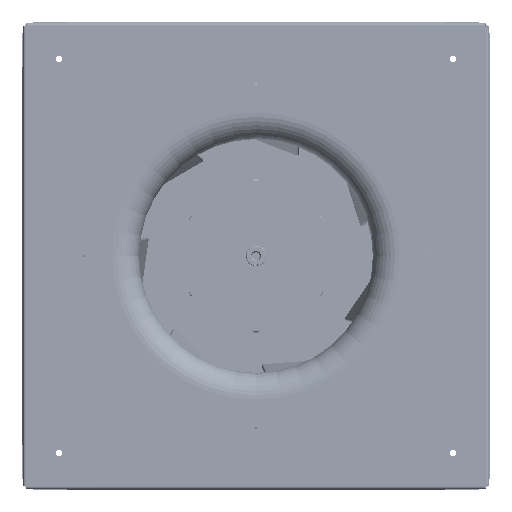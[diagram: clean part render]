
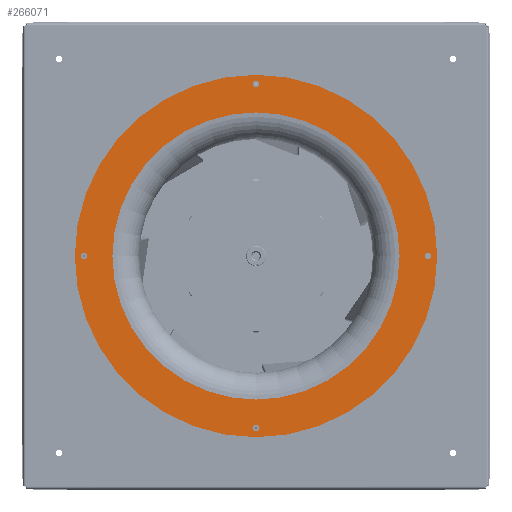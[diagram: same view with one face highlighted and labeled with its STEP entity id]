
A CAD part, front view. The second image highlights one B-rep face of the part: STEP entity #266071.
In plain terms, the highlighted planar face has unit normal (0, -1, 0) as drawn and (0, 0, 1) by its records, which use the part's own axes.
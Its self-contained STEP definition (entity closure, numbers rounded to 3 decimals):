
#5784 = DIRECTION ( 'NONE',  ( 0., 0., 1. ) ) ;
#5878 = VERTEX_POINT ( 'NONE', #50134 ) ;
#6173 = ORIENTED_EDGE ( 'NONE', *, *, #107104, .F. ) ;
#6740 = CIRCLE ( 'NONE', #168367, 8.018 ) ;
#9178 = DIRECTION ( 'NONE',  ( 0., 0., -1. ) ) ;
#9321 = EDGE_LOOP ( 'NONE', ( #62946, #92920 ) ) ;
#13219 = DIRECTION ( 'NONE',  ( 0., 0., 1. ) ) ;
#19659 = DIRECTION ( 'NONE',  ( -1., 0., 0. ) ) ;
#24065 = DIRECTION ( 'NONE',  ( 0., 0., 1. ) ) ;
#26367 = CARTESIAN_POINT ( 'NONE',  ( -9.606, 0., 0. ) ) ;
#29734 = FACE_OUTER_BOUND ( 'NONE', #58894, .T. ) ;
#30065 = DIRECTION ( 'NONE',  ( 0., -1., 0. ) ) ;
#31469 = CARTESIAN_POINT ( 'NONE',  ( 9.606, 0.167, 0. ) ) ;
#32112 = CARTESIAN_POINT ( 'NONE',  ( -10.118, 0., 0. ) ) ;
#32847 = CARTESIAN_POINT ( 'NONE',  ( 0., -9.606, 0. ) ) ;
#34718 = CIRCLE ( 'NONE', #213955, 0.167 ) ;
#40128 = CIRCLE ( 'NONE', #188837, 0.167 ) ;
#41411 = AXIS2_PLACEMENT_3D ( 'NONE', #26367, #5784, #156307 ) ;
#48426 = ORIENTED_EDGE ( 'NONE', *, *, #57987, .F. ) ;
#48944 = FACE_BOUND ( 'NONE', #126848, .T. ) ;
#50134 = CARTESIAN_POINT ( 'NONE',  ( 10.118, 0., 0. ) ) ;
#50281 = PLANE ( 'NONE',  #117219 ) ;
#55107 = AXIS2_PLACEMENT_3D ( 'NONE', #178624, #245798, #137483 ) ;
#55644 = CARTESIAN_POINT ( 'NONE',  ( 0., 0., 0. ) ) ;
#57987 = EDGE_CURVE ( 'NONE', #222456, #238780, #40128, .T. ) ;
#58894 = EDGE_LOOP ( 'NONE', ( #87201, #88058 ) ) ;
#60130 = CARTESIAN_POINT ( 'NONE',  ( 8.018, 0., 0. ) ) ;
#62946 = ORIENTED_EDGE ( 'NONE', *, *, #197472, .F. ) ;
#66470 = VERTEX_POINT ( 'NONE', #269096 ) ;
#70625 = VERTEX_POINT ( 'NONE', #31469 ) ;
#75312 = DIRECTION ( 'NONE',  ( -1., 0., 0. ) ) ;
#78964 = VERTEX_POINT ( 'NONE', #120153 ) ;
#81913 = CARTESIAN_POINT ( 'NONE',  ( 0., 9.606, 0. ) ) ;
#82066 = CARTESIAN_POINT ( 'NONE',  ( 0., 0., 0. ) ) ;
#84742 = DIRECTION ( 'NONE',  ( 0., 0., 1. ) ) ;
#84910 = CIRCLE ( 'NONE', #238027, 10.118 ) ;
#87201 = ORIENTED_EDGE ( 'NONE', *, *, #255250, .T. ) ;
#88058 = ORIENTED_EDGE ( 'NONE', *, *, #128654, .T. ) ;
#92469 = CARTESIAN_POINT ( 'NONE',  ( -9.606, -0.167, 0. ) ) ;
#92920 = ORIENTED_EDGE ( 'NONE', *, *, #191791, .F. ) ;
#95372 = DIRECTION ( 'NONE',  ( 0., -1., 0. ) ) ;
#99235 = CIRCLE ( 'NONE', #103518, 0.167 ) ;
#101745 = DIRECTION ( 'NONE',  ( 0., 0., 1. ) ) ;
#102043 = DIRECTION ( 'NONE',  ( 0., 0., 1. ) ) ;
#102764 = CARTESIAN_POINT ( 'NONE',  ( 9.606, -0.167, 0. ) ) ;
#103518 = AXIS2_PLACEMENT_3D ( 'NONE', #81913, #207866, #202507 ) ;
#103698 = EDGE_CURVE ( 'NONE', #216559, #70625, #34718, .T. ) ;
#106087 = DIRECTION ( 'NONE',  ( 1., 0., 0. ) ) ;
#107104 = EDGE_CURVE ( 'NONE', #66470, #241911, #6740, .T. ) ;
#109994 = ORIENTED_EDGE ( 'NONE', *, *, #188020, .F. ) ;
#112198 = AXIS2_PLACEMENT_3D ( 'NONE', #229544, #24065, #147281 ) ;
#116964 = CIRCLE ( 'NONE', #186984, 8.018 ) ;
#117219 = AXIS2_PLACEMENT_3D ( 'NONE', #133752, #9178, #259908 ) ;
#120153 = CARTESIAN_POINT ( 'NONE',  ( 0.167, 9.606, 0. ) ) ;
#122915 = EDGE_CURVE ( 'NONE', #158729, #254828, #198685, .T. ) ;
#126848 = EDGE_LOOP ( 'NONE', ( #158211, #6173 ) ) ;
#126925 = CARTESIAN_POINT ( 'NONE',  ( -0.167, -9.606, 0. ) ) ;
#127966 = DIRECTION ( 'NONE',  ( 0., 0., 1. ) ) ;
#128654 = EDGE_CURVE ( 'NONE', #255056, #5878, #182222, .T. ) ;
#133574 = EDGE_LOOP ( 'NONE', ( #157157, #219951 ) ) ;
#133752 = CARTESIAN_POINT ( 'NONE',  ( 0., 10.118, 0. ) ) ;
#135078 = CARTESIAN_POINT ( 'NONE',  ( 9.606, 0., 0. ) ) ;
#137483 = DIRECTION ( 'NONE',  ( 1., 0., 0. ) ) ;
#138115 = CIRCLE ( 'NONE', #55107, 0.167 ) ;
#140525 = CIRCLE ( 'NONE', #215034, 0.167 ) ;
#142042 = CIRCLE ( 'NONE', #41411, 0.167 ) ;
#144041 = ORIENTED_EDGE ( 'NONE', *, *, #207850, .F. ) ;
#147281 = DIRECTION ( 'NONE',  ( 1., 0., 0. ) ) ;
#156307 = DIRECTION ( 'NONE',  ( 0., 1., 0. ) ) ;
#157157 = ORIENTED_EDGE ( 'NONE', *, *, #103698, .F. ) ;
#158211 = ORIENTED_EDGE ( 'NONE', *, *, #234895, .F. ) ;
#158327 = FACE_BOUND ( 'NONE', #219143, .T. ) ;
#158729 = VERTEX_POINT ( 'NONE', #92469 ) ;
#159919 = CARTESIAN_POINT ( 'NONE',  ( -0.167, 9.606, 0. ) ) ;
#161996 = CARTESIAN_POINT ( 'NONE',  ( -9.606, 0., 0. ) ) ;
#164091 = CIRCLE ( 'NONE', #251828, 0.167 ) ;
#168367 = AXIS2_PLACEMENT_3D ( 'NONE', #82066, #84742, #250566 ) ;
#175221 = CARTESIAN_POINT ( 'NONE',  ( 9.606, 0., 0. ) ) ;
#175498 = CARTESIAN_POINT ( 'NONE',  ( -9.606, 0.167, 0. ) ) ;
#178624 = CARTESIAN_POINT ( 'NONE',  ( 0., 9.606, 0. ) ) ;
#182222 = CIRCLE ( 'NONE', #112198, 10.118 ) ;
#182670 = DIRECTION ( 'NONE',  ( 0., 0., 1. ) ) ;
#186984 = AXIS2_PLACEMENT_3D ( 'NONE', #204829, #102043, #251372 ) ;
#188020 = EDGE_CURVE ( 'NONE', #254828, #158729, #142042, .T. ) ;
#188837 = AXIS2_PLACEMENT_3D ( 'NONE', #32847, #263035, #75312 ) ;
#191791 = EDGE_CURVE ( 'NONE', #202473, #78964, #138115, .T. ) ;
#197153 = DIRECTION ( 'NONE',  ( 0., 0., 1. ) ) ;
#197212 = CARTESIAN_POINT ( 'NONE',  ( 0.167, -9.606, 0. ) ) ;
#197472 = EDGE_CURVE ( 'NONE', #78964, #202473, #99235, .T. ) ;
#198685 = CIRCLE ( 'NONE', #246858, 0.167 ) ;
#202473 = VERTEX_POINT ( 'NONE', #159919 ) ;
#202507 = DIRECTION ( 'NONE',  ( 1., 0., 0. ) ) ;
#203173 = DIRECTION ( 'NONE',  ( 0., 1., 0. ) ) ;
#204829 = CARTESIAN_POINT ( 'NONE',  ( 0., 0., 0. ) ) ;
#207850 = EDGE_CURVE ( 'NONE', #238780, #222456, #140525, .T. ) ;
#207866 = DIRECTION ( 'NONE',  ( 0., 0., 1. ) ) ;
#213955 = AXIS2_PLACEMENT_3D ( 'NONE', #175221, #197153, #30065 ) ;
#215034 = AXIS2_PLACEMENT_3D ( 'NONE', #266356, #182670, #19659 ) ;
#216012 = FACE_BOUND ( 'NONE', #9321, .T. ) ;
#216559 = VERTEX_POINT ( 'NONE', #102764 ) ;
#219143 = EDGE_LOOP ( 'NONE', ( #144041, #48426 ) ) ;
#219951 = ORIENTED_EDGE ( 'NONE', *, *, #221005, .F. ) ;
#221005 = EDGE_CURVE ( 'NONE', #70625, #216559, #164091, .T. ) ;
#222456 = VERTEX_POINT ( 'NONE', #197212 ) ;
#229544 = CARTESIAN_POINT ( 'NONE',  ( 0., 0., 0. ) ) ;
#232733 = ORIENTED_EDGE ( 'NONE', *, *, #122915, .F. ) ;
#234895 = EDGE_CURVE ( 'NONE', #241911, #66470, #116964, .T. ) ;
#238027 = AXIS2_PLACEMENT_3D ( 'NONE', #55644, #127966, #106087 ) ;
#238780 = VERTEX_POINT ( 'NONE', #126925 ) ;
#241911 = VERTEX_POINT ( 'NONE', #60130 ) ;
#242027 = FACE_BOUND ( 'NONE', #133574, .T. ) ;
#245798 = DIRECTION ( 'NONE',  ( 0., 0., 1. ) ) ;
#246858 = AXIS2_PLACEMENT_3D ( 'NONE', #161996, #101745, #203173 ) ;
#250566 = DIRECTION ( 'NONE',  ( 1., 0., 0. ) ) ;
#251372 = DIRECTION ( 'NONE',  ( 1., 0., 0. ) ) ;
#251828 = AXIS2_PLACEMENT_3D ( 'NONE', #135078, #13219, #95372 ) ;
#254828 = VERTEX_POINT ( 'NONE', #175498 ) ;
#255056 = VERTEX_POINT ( 'NONE', #32112 ) ;
#255250 = EDGE_CURVE ( 'NONE', #5878, #255056, #84910, .T. ) ;
#259908 = DIRECTION ( 'NONE',  ( 0., -1., 0. ) ) ;
#262608 = FACE_BOUND ( 'NONE', #265104, .T. ) ;
#263035 = DIRECTION ( 'NONE',  ( 0., 0., 1. ) ) ;
#265104 = EDGE_LOOP ( 'NONE', ( #109994, #232733 ) ) ;
#266071 = ADVANCED_FACE ( 'NONE', ( #48944, #216012, #262608, #158327, #242027, #29734 ), #50281, .F. ) ;
#266356 = CARTESIAN_POINT ( 'NONE',  ( 0., -9.606, 0. ) ) ;
#269096 = CARTESIAN_POINT ( 'NONE',  ( -8.018, 0., 0. ) ) ;
